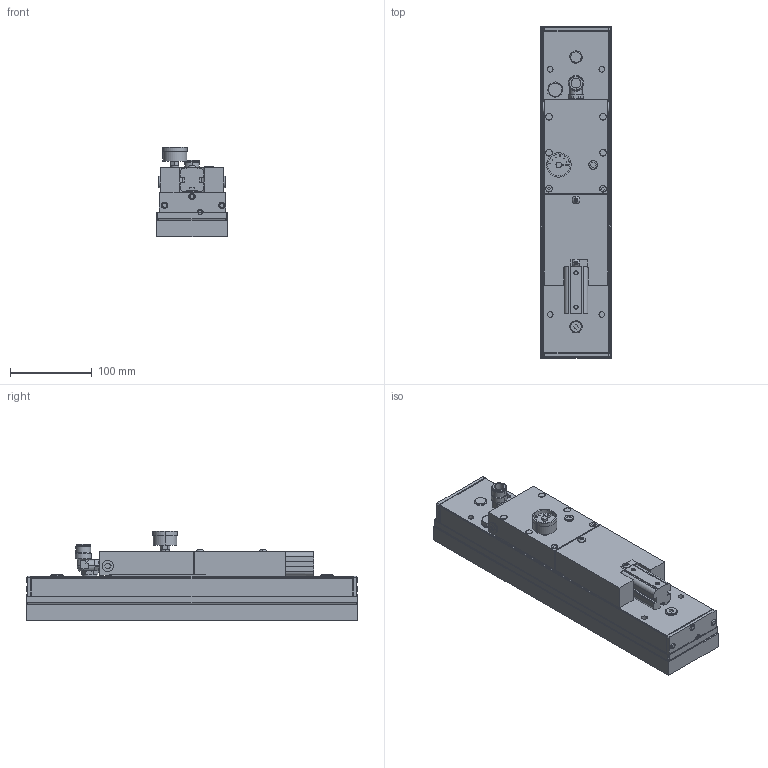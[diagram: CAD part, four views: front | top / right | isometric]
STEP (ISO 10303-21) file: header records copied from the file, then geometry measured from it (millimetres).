
FILE_DESCRIPTION (( 'STEP AP214' ), '1' );
FILE_NAME ('9671 040 013.STEP', '2012-09-12T09:24:00', ( 'cad' ), ( 'Microsoft' ), 'SwSTEP 2.0', 'SolidWorks 2012', '' );
FILE_SCHEMA (( 'AUTOMOTIVE_DESIGN' ));
Length unit declared in the file: millimetre
Products named in the file (1): 9671 040 013
Bounding box: 86 x 406 x 109.5 mm (x, y, z)
Volume: 2217920.6 mm3; surface area: 227730.8 mm2
Topology: 1 solids, 1 shells, 660 faces, 1540 edges, 970 vertices
Faces by surface type: plane 377, cylinder 198, cone 56, torus 16, bspline 8, sphere 5
Entity records: 25043 total; most frequent: CARTESIAN_POINT 3777, DIRECTION 3299, ORIENTED_EDGE 3072, EDGE_CURVE 1536, AXIS2_PLACEMENT_3D 1188, VERTEX_POINT 970, VECTOR 923, LINE 923
